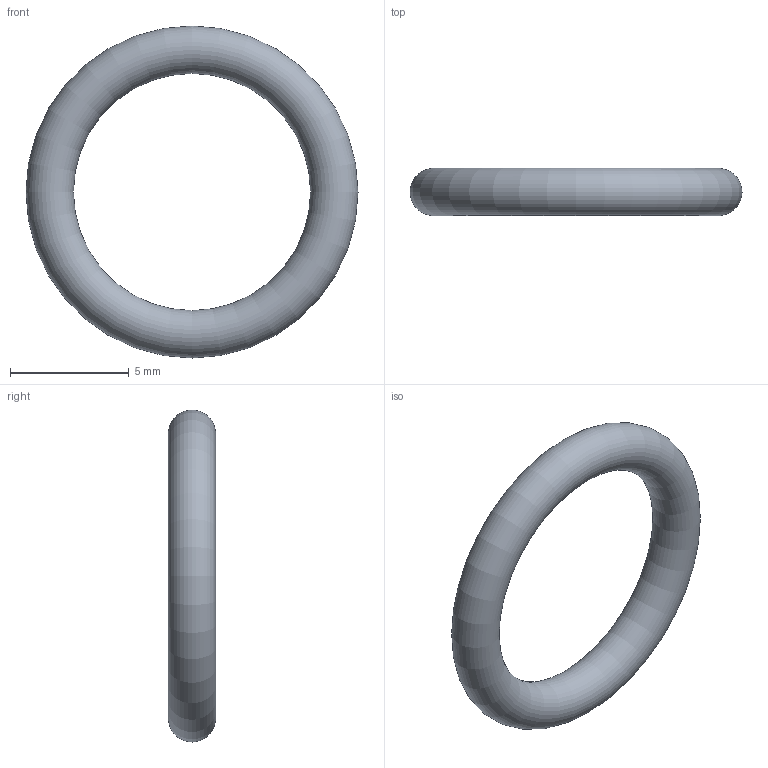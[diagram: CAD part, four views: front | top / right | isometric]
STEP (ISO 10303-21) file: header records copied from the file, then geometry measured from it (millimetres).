
FILE_DESCRIPTION( ( 'STEP AP203' ), '1' );
FILE_NAME( 'C:/Temp/Ganter_Step_05_03_2020/data/3_5/or638/O-Ring OR638-10.00-2.00-70.stp', '2020-03-12T13:44:21', ( 'License CC BY-ND 4.0' ), ( 'CADENAS' ), ' ', 'PARTsolutions', ' ' );
FILE_SCHEMA( ( 'CONFIG_CONTROL_DESIGN' ) );
Length unit declared in the file: millimetre
Products named in the file (1): _O-Ring OR638-10.00-2.00-70
Bounding box: 14 x 2 x 14 mm (x, y, z)
Volume: 118.4 mm3; surface area: 236.9 mm2
Topology: 1 solids, 1 shells, 1 faces, 2 edges, 1 vertices
Faces by surface type: torus 1
Entity records: 62 total; most frequent: CC_DESIGN_PERSON_AND_ORGANIZATION_ASSIGNMENT 5, PERSON_AND_ORGANIZATION_ROLE 4, DIRECTION 4, CARTESIAN_POINT 3, DATE_TIME_ROLE 2, CC_DESIGN_DATE_AND_TIME_ASSIGNMENT 2, AXIS2_PLACEMENT_3D 2, DIMENSIONAL_EXPONENTS 2
